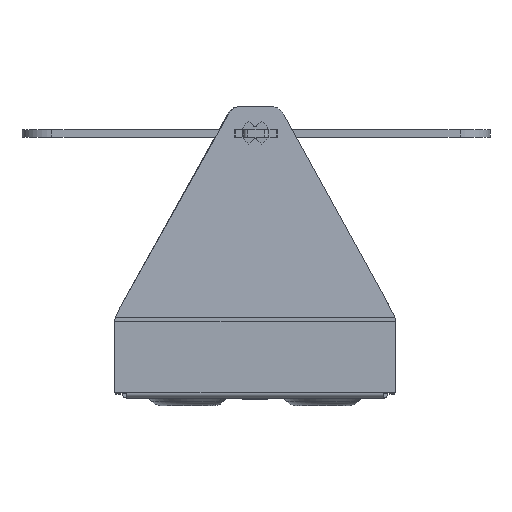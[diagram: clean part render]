
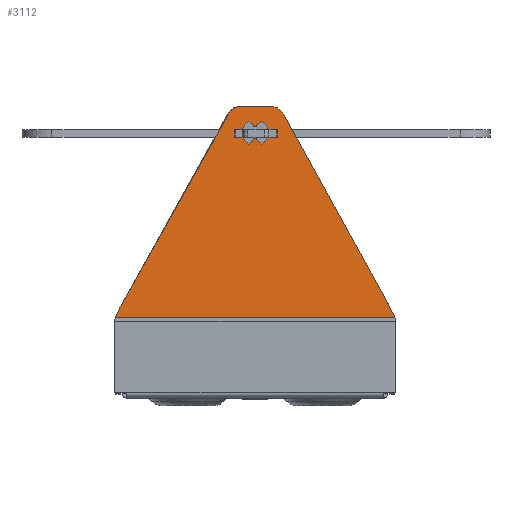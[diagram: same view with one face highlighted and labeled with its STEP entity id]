
A CAD part, left-side view. The second image highlights one B-rep face of the part: STEP entity #3112.
In plain terms, the highlighted planar face has unit normal (-0.999, 0, 0.035).
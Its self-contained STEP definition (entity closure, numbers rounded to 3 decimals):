
#81 = DIRECTION ( 'NONE',  ( 0.025, -0.707, 0.707 ) ) ;
#99 = VECTOR ( 'NONE', #81, 1000. ) ;
#169 = DIRECTION ( 'NONE',  ( 0.03, -0.488, 0.873 ) ) ;
#217 = VECTOR ( 'NONE', #3602, 1000. ) ;
#259 = EDGE_CURVE ( 'NONE', #5397, #2008, #2021, .T. ) ;
#271 = CARTESIAN_POINT ( 'NONE',  ( -0.146, 67.75, 20.511 ) ) ;
#302 = DIRECTION ( 'NONE',  ( -0.999, 0., 0.035 ) ) ;
#349 = CARTESIAN_POINT ( 'NONE',  ( -0.146, 0.75, 20.525 ) ) ;
#424 = CARTESIAN_POINT ( 'NONE',  ( 1.719, 37.902, 73.92 ) ) ;
#546 = ORIENTED_EDGE ( 'NONE', *, *, #3491, .T. ) ;
#604 = CARTESIAN_POINT ( 'NONE',  ( 1.507, 35.915, 67.844 ) ) ;
#611 = AXIS2_PLACEMENT_3D ( 'NONE', #424, #4611, #1040 ) ;
#646 = CARTESIAN_POINT ( 'NONE',  ( 1.688, 34.25, 73.041 ) ) ;
#724 = CARTESIAN_POINT ( 'NONE',  ( 1.786, 26.61, 75.845 ) ) ;
#726 = CARTESIAN_POINT ( 'NONE',  ( 1.552, 34.604, 69.155 ) ) ;
#785 = CARTESIAN_POINT ( 'NONE',  ( 1.552, 33.896, 69.155 ) ) ;
#854 = CIRCLE ( 'NONE', #2491, 4. ) ;
#887 = DIRECTION ( 'NONE',  ( 0.035, 0., 0.999 ) ) ;
#893 = PLANE ( 'NONE',  #2323 ) ;
#918 = AXIS2_PLACEMENT_3D ( 'NONE', #3212, #7418, #3821 ) ;
#939 = CARTESIAN_POINT ( 'NONE',  ( 1.676, 34.604, 72.688 ) ) ;
#961 = DIRECTION ( 'NONE',  ( 0.035, 0., 0.999 ) ) ;
#1000 = EDGE_CURVE ( 'NONE', #1209, #1504, #7214, .T. ) ;
#1001 = ORIENTED_EDGE ( 'NONE', *, *, #5181, .T. ) ;
#1040 = DIRECTION ( 'NONE',  ( 0.035, 0., 0.999 ) ) ;
#1061 = ORIENTED_EDGE ( 'NONE', *, *, #259, .F. ) ;
#1099 = ORIENTED_EDGE ( 'NONE', *, *, #1818, .T. ) ;
#1106 = CARTESIAN_POINT ( 'NONE',  ( 1.676, 34.604, 72.688 ) ) ;
#1148 = DIRECTION ( 'NONE',  ( -0.999, 0., 0.035 ) ) ;
#1169 = CIRCLE ( 'NONE', #7742, 3.5 ) ;
#1209 = VERTEX_POINT ( 'NONE', #2863 ) ;
#1235 = DIRECTION ( 'NONE',  ( -0.035, 0., -0.999 ) ) ;
#1403 = ORIENTED_EDGE ( 'NONE', *, *, #1973, .T. ) ;
#1413 = AXIS2_PLACEMENT_3D ( 'NONE', #349, #4528, #961 ) ;
#1432 = DIRECTION ( 'NONE',  ( 0., -1., 0. ) ) ;
#1469 = VERTEX_POINT ( 'NONE', #939 ) ;
#1479 = VERTEX_POINT ( 'NONE', #2129 ) ;
#1485 = VERTEX_POINT ( 'NONE', #3324 ) ;
#1504 = VERTEX_POINT ( 'NONE', #2152 ) ;
#1557 = VERTEX_POINT ( 'NONE', #604 ) ;
#1789 = VECTOR ( 'NONE', #7616, 1000. ) ;
#1818 = EDGE_CURVE ( 'NONE', #1557, #6737, #6479, .T. ) ;
#1837 = ORIENTED_EDGE ( 'NONE', *, *, #3459, .T. ) ;
#1871 = FACE_OUTER_BOUND ( 'NONE', #2396, .T. ) ;
#1918 = DIRECTION ( 'NONE',  ( -0.025, 0.707, -0.707 ) ) ;
#1940 = VERTEX_POINT ( 'NONE', #3590 ) ;
#1965 = ORIENTED_EDGE ( 'NONE', *, *, #5368, .T. ) ;
#1968 = LINE ( 'NONE', #726, #4588 ) ;
#1973 = EDGE_CURVE ( 'NONE', #5058, #6716, #4799, .T. ) ;
#2008 = VERTEX_POINT ( 'NONE', #6094 ) ;
#2013 = CIRCLE ( 'NONE', #6112, 0.5 ) ;
#2021 = LINE ( 'NONE', #3831, #3422 ) ;
#2037 = EDGE_CURVE ( 'NONE', #4262, #1485, #2441, .T. ) ;
#2129 = CARTESIAN_POINT ( 'NONE',  ( 1.676, 33.896, 72.688 ) ) ;
#2152 = CARTESIAN_POINT ( 'NONE',  ( -0.079, -2.755, 22.451 ) ) ;
#2167 = DIRECTION ( 'NONE',  ( -0.999, 0., 0.035 ) ) ;
#2214 = ORIENTED_EDGE ( 'NONE', *, *, #2897, .T. ) ;
#2323 = AXIS2_PLACEMENT_3D ( 'NONE', #6269, #302, #4479 ) ;
#2396 = EDGE_LOOP ( 'NONE', ( #3679, #6990, #4644, #1001, #1061, #2886, #6916, #546 ) ) ;
#2400 = EDGE_CURVE ( 'NONE', #6247, #1504, #3380, .T. ) ;
#2415 = CIRCLE ( 'NONE', #918, 0.5 ) ;
#2441 = LINE ( 'NONE', #3752, #5642 ) ;
#2491 = AXIS2_PLACEMENT_3D ( 'NONE', #271, #4450, #887 ) ;
#2720 = CARTESIAN_POINT ( 'NONE',  ( 1.614, 34.25, 70.921 ) ) ;
#2750 = CARTESIAN_POINT ( 'NONE',  ( 1.552, 34.604, 69.155 ) ) ;
#2765 = VERTEX_POINT ( 'NONE', #2750 ) ;
#2798 = VECTOR ( 'NONE', #6697, 1000. ) ;
#2860 = ORIENTED_EDGE ( 'NONE', *, *, #6649, .T. ) ;
#2863 = CARTESIAN_POINT ( 'NONE',  ( -0.109, -3.109, 21.576 ) ) ;
#2886 = ORIENTED_EDGE ( 'NONE', *, *, #3928, .T. ) ;
#2897 = EDGE_CURVE ( 'NONE', #6737, #1469, #4401, .T. ) ;
#2938 = CIRCLE ( 'NONE', #7463, 4. ) ;
#3028 = CARTESIAN_POINT ( 'NONE',  ( 1.671, 34.25, 72.542 ) ) ;
#3082 = DIRECTION ( 'NONE',  ( 0.999, 0., -0.035 ) ) ;
#3112 = ADVANCED_FACE ( 'NONE', ( #1871, #6286 ), #893, .T. ) ;
#3212 = CARTESIAN_POINT ( 'NONE',  ( 1.688, 34.25, 73.041 ) ) ;
#3294 = AXIS2_PLACEMENT_3D ( 'NONE', #4721, #1148, #5335 ) ;
#3324 = CARTESIAN_POINT ( 'NONE',  ( 1.787, 41.395, 75.869 ) ) ;
#3335 = DIRECTION ( 'NONE',  ( -0.035, 0., -0.999 ) ) ;
#3341 = EDGE_CURVE ( 'NONE', #2765, #1557, #1968, .T. ) ;
#3380 = LINE ( 'NONE', #6429, #1789 ) ;
#3393 = LINE ( 'NONE', #5398, #217 ) ;
#3422 = VECTOR ( 'NONE', #1432, 1000. ) ;
#3459 = EDGE_CURVE ( 'NONE', #1469, #5417, #2415, .T. ) ;
#3491 = EDGE_CURVE ( 'NONE', #4262, #1940, #854, .T. ) ;
#3590 = CARTESIAN_POINT ( 'NONE',  ( -0.109, 71.605, 21.576 ) ) ;
#3602 = DIRECTION ( 'NONE',  ( 0., 1., 0. ) ) ;
#3644 = CARTESIAN_POINT ( 'NONE',  ( 1.552, 33.896, 69.155 ) ) ;
#3679 = ORIENTED_EDGE ( 'NONE', *, *, #7124, .F. ) ;
#3752 = CARTESIAN_POINT ( 'NONE',  ( -0.11, 71.75, 21.551 ) ) ;
#3783 = CIRCLE ( 'NONE', #3294, 0.5 ) ;
#3821 = DIRECTION ( 'NONE',  ( -0.035, 0., -0.999 ) ) ;
#3831 = CARTESIAN_POINT ( 'NONE',  ( 1.858, 40.25, 77.917 ) ) ;
#3928 = EDGE_CURVE ( 'NONE', #5397, #1485, #6593, .T. ) ;
#4131 = CARTESIAN_POINT ( 'NONE',  ( 1.721, 32.585, 73.998 ) ) ;
#4189 = ORIENTED_EDGE ( 'NONE', *, *, #5254, .T. ) ;
#4209 = CARTESIAN_POINT ( 'NONE',  ( 1.858, 37.902, 77.917 ) ) ;
#4245 = DIRECTION ( 'NONE',  ( 0.025, 0.707, 0.707 ) ) ;
#4262 = VERTEX_POINT ( 'NONE', #5036 ) ;
#4375 = CARTESIAN_POINT ( 'NONE',  ( 1.721, 35.915, 73.998 ) ) ;
#4401 = LINE ( 'NONE', #1106, #2798 ) ;
#4450 = DIRECTION ( 'NONE',  ( -0.999, 0., 0.035 ) ) ;
#4479 = DIRECTION ( 'NONE',  ( 0.035, 0., 0.999 ) ) ;
#4528 = DIRECTION ( 'NONE',  ( -0.999, 0., 0.035 ) ) ;
#4588 = VECTOR ( 'NONE', #1918, 1000. ) ;
#4611 = DIRECTION ( 'NONE',  ( -0.999, 0., 0.035 ) ) ;
#4644 = ORIENTED_EDGE ( 'NONE', *, *, #2400, .F. ) ;
#4721 = CARTESIAN_POINT ( 'NONE',  ( 1.54, 34.25, 68.801 ) ) ;
#4799 = LINE ( 'NONE', #3644, #6584 ) ;
#4802 = LINE ( 'NONE', #7268, #99 ) ;
#4826 = DIRECTION ( 'NONE',  ( -0.999, 0., 0.035 ) ) ;
#5036 = CARTESIAN_POINT ( 'NONE',  ( -0.078, 71.242, 22.46 ) ) ;
#5055 = CARTESIAN_POINT ( 'NONE',  ( 1.507, 32.585, 67.844 ) ) ;
#5058 = VERTEX_POINT ( 'NONE', #5055 ) ;
#5181 = EDGE_CURVE ( 'NONE', #6247, #2008, #2938, .T. ) ;
#5254 = EDGE_CURVE ( 'NONE', #6716, #2765, #3783, .T. ) ;
#5335 = DIRECTION ( 'NONE',  ( 0.035, 0., 0.999 ) ) ;
#5368 = EDGE_CURVE ( 'NONE', #5417, #1479, #2013, .T. ) ;
#5397 = VERTEX_POINT ( 'NONE', #4209 ) ;
#5398 = CARTESIAN_POINT ( 'NONE',  ( -0.109, 0., 21.576 ) ) ;
#5417 = VERTEX_POINT ( 'NONE', #3028 ) ;
#5642 = VECTOR ( 'NONE', #169, 1000. ) ;
#5752 = CARTESIAN_POINT ( 'NONE',  ( 1.719, 30.116, 73.92 ) ) ;
#6094 = CARTESIAN_POINT ( 'NONE',  ( 1.858, 30.116, 77.917 ) ) ;
#6112 = AXIS2_PLACEMENT_3D ( 'NONE', #646, #4826, #1235 ) ;
#6247 = VERTEX_POINT ( 'NONE', #724 ) ;
#6269 = CARTESIAN_POINT ( 'NONE',  ( -0.808, 0., 1.564 ) ) ;
#6286 = FACE_BOUND ( 'NONE', #7020, .T. ) ;
#6336 = AXIS2_PLACEMENT_3D ( 'NONE', #2720, #6942, #3335 ) ;
#6365 = DIRECTION ( 'NONE',  ( 0.035, 0., 0.999 ) ) ;
#6429 = CARTESIAN_POINT ( 'NONE',  ( 1.858, 27.75, 77.917 ) ) ;
#6479 = CIRCLE ( 'NONE', #6336, 3.5 ) ;
#6584 = VECTOR ( 'NONE', #4245, 1000. ) ;
#6593 = CIRCLE ( 'NONE', #611, 4. ) ;
#6603 = ORIENTED_EDGE ( 'NONE', *, *, #3341, .T. ) ;
#6649 = EDGE_CURVE ( 'NONE', #1479, #7557, #4802, .T. ) ;
#6668 = EDGE_CURVE ( 'NONE', #7557, #5058, #1169, .T. ) ;
#6697 = DIRECTION ( 'NONE',  ( -0.025, -0.707, -0.707 ) ) ;
#6698 = CARTESIAN_POINT ( 'NONE',  ( 1.614, 34.25, 70.921 ) ) ;
#6716 = VERTEX_POINT ( 'NONE', #785 ) ;
#6737 = VERTEX_POINT ( 'NONE', #4375 ) ;
#6916 = ORIENTED_EDGE ( 'NONE', *, *, #2037, .F. ) ;
#6942 = DIRECTION ( 'NONE',  ( 0.999, 0., -0.035 ) ) ;
#6990 = ORIENTED_EDGE ( 'NONE', *, *, #1000, .T. ) ;
#7020 = EDGE_LOOP ( 'NONE', ( #1837, #1965, #2860, #7736, #1403, #4189, #6603, #1099, #2214 ) ) ;
#7124 = EDGE_CURVE ( 'NONE', #1209, #1940, #3393, .T. ) ;
#7214 = CIRCLE ( 'NONE', #1413, 4. ) ;
#7268 = CARTESIAN_POINT ( 'NONE',  ( 1.676, 33.896, 72.688 ) ) ;
#7289 = DIRECTION ( 'NONE',  ( 0.035, 0., 0.999 ) ) ;
#7418 = DIRECTION ( 'NONE',  ( -0.999, 0., 0.035 ) ) ;
#7463 = AXIS2_PLACEMENT_3D ( 'NONE', #5752, #2167, #6365 ) ;
#7557 = VERTEX_POINT ( 'NONE', #4131 ) ;
#7616 = DIRECTION ( 'NONE',  ( -0.031, -0.482, -0.876 ) ) ;
#7736 = ORIENTED_EDGE ( 'NONE', *, *, #6668, .T. ) ;
#7742 = AXIS2_PLACEMENT_3D ( 'NONE', #6698, #3082, #7289 ) ;
